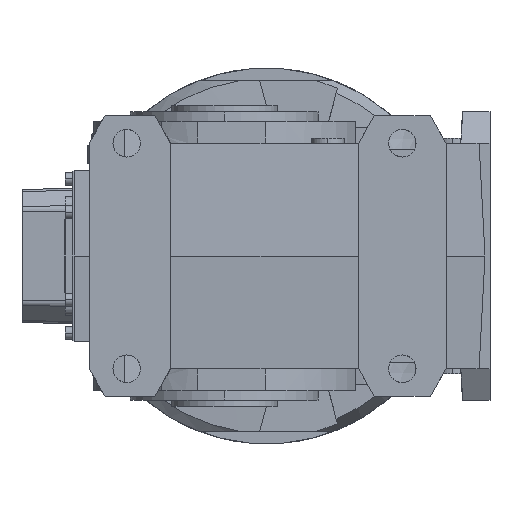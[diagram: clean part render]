
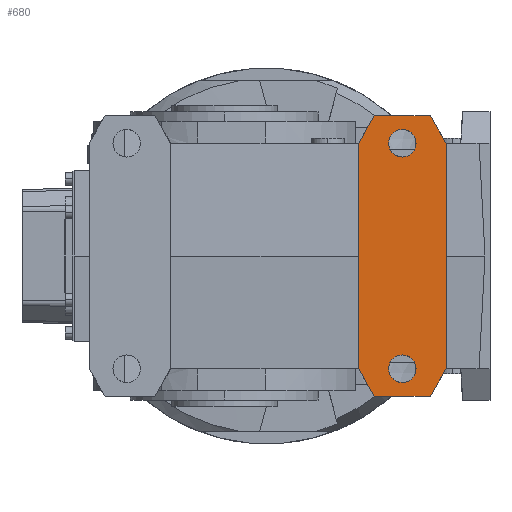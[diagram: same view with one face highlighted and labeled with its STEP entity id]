
A CAD part, left-side view. The second image highlights one B-rep face of the part: STEP entity #680.
In plain terms, the highlighted planar face has unit normal (-1, 0, 0).
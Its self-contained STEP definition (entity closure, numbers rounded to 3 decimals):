
#680 = ADVANCED_FACE( '', ( #3456, #3457, #3458 ), #3459, .T. );
#3456 = FACE_OUTER_BOUND( '', #8962, .T. );
#3457 = FACE_BOUND( '', #8963, .T. );
#3458 = FACE_BOUND( '', #8964, .T. );
#3459 = PLANE( '', #8965 );
#8962 = EDGE_LOOP( '', ( #15145, #15146, #15147, #15148, #15149, #15150, #15151, #15152 ) );
#8963 = EDGE_LOOP( '', ( #15153, #15154 ) );
#8964 = EDGE_LOOP( '', ( #15155, #15156 ) );
#8965 = AXIS2_PLACEMENT_3D( '', #15157, #15158, #15159 );
#15145 = ORIENTED_EDGE( '', *, *, #36876, .T. );
#15146 = ORIENTED_EDGE( '', *, *, #36879, .T. );
#15147 = ORIENTED_EDGE( '', *, *, #36880, .T. );
#15148 = ORIENTED_EDGE( '', *, *, #36881, .T. );
#15149 = ORIENTED_EDGE( '', *, *, #36882, .T. );
#15150 = ORIENTED_EDGE( '', *, *, #36883, .T. );
#15151 = ORIENTED_EDGE( '', *, *, #36884, .F. );
#15152 = ORIENTED_EDGE( '', *, *, #36885, .T. );
#15153 = ORIENTED_EDGE( '', *, *, #36575, .T. );
#15154 = ORIENTED_EDGE( '', *, *, #36886, .T. );
#15155 = ORIENTED_EDGE( '', *, *, #36587, .T. );
#15156 = ORIENTED_EDGE( '', *, *, #36887, .T. );
#15157 = CARTESIAN_POINT( '', ( -132., -212., 112. ) );
#15158 = DIRECTION( '', ( -1., 0., 0. ) );
#15159 = DIRECTION( '', ( 0., 0., 1. ) );
#36575 = EDGE_CURVE( '', #43870, #43867, #43871, .T. );
#36587 = EDGE_CURVE( '', #43894, #43891, #43895, .T. );
#36876 = EDGE_CURVE( '', #44398, #44404, #44406, .T. );
#36879 = EDGE_CURVE( '', #44404, #44409, #44410, .T. );
#36880 = EDGE_CURVE( '', #44409, #44411, #44412, .T. );
#36881 = EDGE_CURVE( '', #44411, #44413, #44414, .T. );
#36882 = EDGE_CURVE( '', #44413, #44415, #44416, .T. );
#36883 = EDGE_CURVE( '', #44415, #44417, #44418, .T. );
#36884 = EDGE_CURVE( '', #44419, #44417, #44420, .T. );
#36885 = EDGE_CURVE( '', #44419, #44398, #44421, .T. );
#36886 = EDGE_CURVE( '', #43867, #43870, #44422, .T. );
#36887 = EDGE_CURVE( '', #43891, #43894, #44423, .T. );
#43867 = VERTEX_POINT( '', #55874 );
#43870 = VERTEX_POINT( '', #55878 );
#43871 = CIRCLE( '', #55879, 11. );
#43891 = VERTEX_POINT( '', #55904 );
#43894 = VERTEX_POINT( '', #55908 );
#43895 = CIRCLE( '', #55909, 11. );
#44398 = VERTEX_POINT( '', #56610 );
#44404 = VERTEX_POINT( '', #56619 );
#44406 = LINE( '', #56622, #56623 );
#44409 = VERTEX_POINT( '', #56628 );
#44410 = LINE( '', #56629, #56630 );
#44411 = VERTEX_POINT( '', #56631 );
#44412 = LINE( '', #56632, #56633 );
#44413 = VERTEX_POINT( '', #56634 );
#44414 = LINE( '', #56635, #56636 );
#44415 = VERTEX_POINT( '', #56637 );
#44416 = LINE( '', #56638, #56639 );
#44417 = VERTEX_POINT( '', #56640 );
#44418 = LINE( '', #56641, #56642 );
#44419 = VERTEX_POINT( '', #56643 );
#44420 = LINE( '', #56644, #56645 );
#44421 = LINE( '', #56646, #56647 );
#44422 = CIRCLE( '', #56648, 11. );
#44423 = CIRCLE( '', #56649, 11. );
#55874 = CARTESIAN_POINT( '', ( -132., -142., -79. ) );
#55878 = CARTESIAN_POINT( '', ( -132., -142., -101. ) );
#55879 = AXIS2_PLACEMENT_3D( '', #74909, #74910, #74911 );
#55904 = CARTESIAN_POINT( '', ( -132., -142., 101. ) );
#55908 = CARTESIAN_POINT( '', ( -132., -142., 79. ) );
#55909 = AXIS2_PLACEMENT_3D( '', #74933, #74934, #74935 );
#56610 = CARTESIAN_POINT( '', ( -132., -177., -90. ) );
#56619 = CARTESIAN_POINT( '', ( -132., -177., 90. ) );
#56622 = CARTESIAN_POINT( '', ( -132., -177., 56. ) );
#56623 = VECTOR( '', #75396, 1. );
#56628 = CARTESIAN_POINT( '', ( -132., -164.298, 112. ) );
#56629 = CARTESIAN_POINT( '', ( -132., -170.261, 101.672 ) );
#56630 = VECTOR( '', #75399, 1. );
#56631 = CARTESIAN_POINT( '', ( -132., -119.702, 112. ) );
#56632 = CARTESIAN_POINT( '', ( -132., -212., 112. ) );
#56633 = VECTOR( '', #75400, 1. );
#56634 = CARTESIAN_POINT( '', ( -132., -107., 90. ) );
#56635 = CARTESIAN_POINT( '', ( -132., -124.888, 120.983 ) );
#56636 = VECTOR( '', #75401, 1. );
#56637 = CARTESIAN_POINT( '', ( -132., -107., -90. ) );
#56638 = CARTESIAN_POINT( '', ( -132., -107., 56. ) );
#56639 = VECTOR( '', #75402, 1. );
#56640 = CARTESIAN_POINT( '', ( -132., -119.702, -112. ) );
#56641 = CARTESIAN_POINT( '', ( -132., -82.742, -47.983 ) );
#56642 = VECTOR( '', #75403, 1. );
#56643 = CARTESIAN_POINT( '', ( -132., -164.298, -112. ) );
#56644 = CARTESIAN_POINT( '', ( -132., -212., -112. ) );
#56645 = VECTOR( '', #75404, 1. );
#56646 = CARTESIAN_POINT( '', ( -132., -225.109, -6.672 ) );
#56647 = VECTOR( '', #75405, 1. );
#56648 = AXIS2_PLACEMENT_3D( '', #75406, #75407, #75408 );
#56649 = AXIS2_PLACEMENT_3D( '', #75409, #75410, #75411 );
#74909 = CARTESIAN_POINT( '', ( -132., -142., -90. ) );
#74910 = DIRECTION( '', ( 1., 0., 0. ) );
#74911 = DIRECTION( '', ( 0., 0., 1. ) );
#74933 = CARTESIAN_POINT( '', ( -132., -142., 90. ) );
#74934 = DIRECTION( '', ( 1., 0., 0. ) );
#74935 = DIRECTION( '', ( 0., 0., 1. ) );
#75396 = DIRECTION( '', ( 0., 0., 1. ) );
#75399 = DIRECTION( '', ( 0., 0.5, 0.866 ) );
#75400 = DIRECTION( '', ( 0., 1., 0. ) );
#75401 = DIRECTION( '', ( 0., 0.5, -0.866 ) );
#75402 = DIRECTION( '', ( 0., 0., -1. ) );
#75403 = DIRECTION( '', ( 0., -0.5, -0.866 ) );
#75404 = DIRECTION( '', ( 0., 1., 0. ) );
#75405 = DIRECTION( '', ( 0., -0.5, 0.866 ) );
#75406 = CARTESIAN_POINT( '', ( -132., -142., -90. ) );
#75407 = DIRECTION( '', ( 1., 0., 0. ) );
#75408 = DIRECTION( '', ( 0., 0., 1. ) );
#75409 = CARTESIAN_POINT( '', ( -132., -142., 90. ) );
#75410 = DIRECTION( '', ( 1., 0., 0. ) );
#75411 = DIRECTION( '', ( 0., 0., 1. ) );
